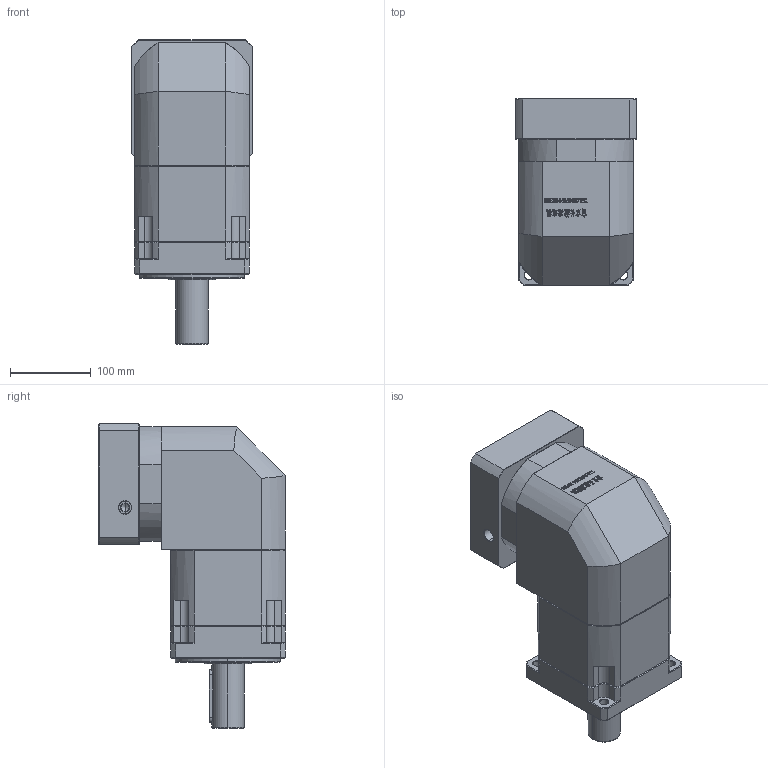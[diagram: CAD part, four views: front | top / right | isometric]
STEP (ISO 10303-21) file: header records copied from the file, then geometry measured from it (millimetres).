
FILE_DESCRIPTION (( 'STEP AP214' ), '1' );
FILE_NAME ('ZBR142A-D40-L2-28-130-165-M10.step', '2023-03-18T09:22:21', ( '' ), ( '' ), 'SwSTEP 2.0', 'SolidWorks 2016', '' );
FILE_SCHEMA (( 'AUTOMOTIVE_DESIGN' ));
Length unit declared in the file: millimetre
Products named in the file (1): ZBR142A-D40-L2-28-130-165-M10
Bounding box: 150 x 231 x 377.7 mm (x, y, z)
Volume: 6263265.5 mm3; surface area: 420881.8 mm2
Topology: 6 solids, 6 shells, 2915 faces, 7786 edges, 5020 vertices
Faces by surface type: plane 1540, bspline 597, cylinder 424, cone 332, torus 22
Entity records: 164513 total; most frequent: CARTESIAN_POINT 64437, ORIENTED_EDGE 15512, DIRECTION 11733, EDGE_CURVE 7756, LINE 5219, VECTOR 5219, VERTEX_POINT 5020, AXIS2_PLACEMENT_3D 3257
